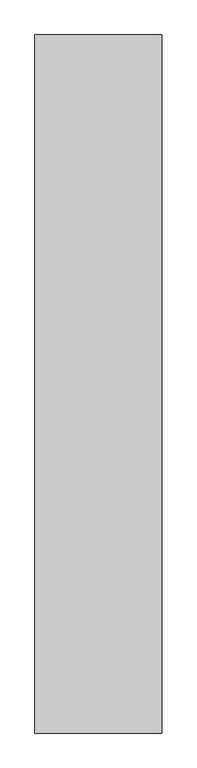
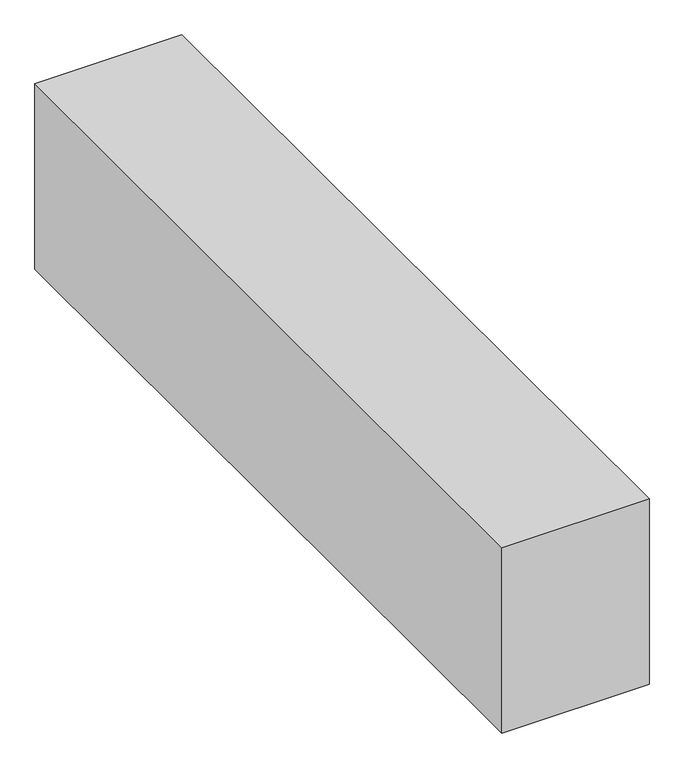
"""IFC4 building model written with IfcOpenShell, lengths in millimetres: proxy geometry, 制気口ボックス : 制気口ボックス."""

import ifcopenshell
import ifcopenshell.guid

model = None  # the IFC model being written
_history = None  # IfcOwnerHistory: only IFC2X3 demands one
_inside = {}  # id of a spatial element -> (the spatial element, [elements in it])
_under = {}  # id of a project, library or spatial element -> (it, [spatial elements below it])
_declared = {}  # id of a project -> (the project, [libraries it declares])
_typed = {}  # id of a type object -> (the type object, [elements of that type])
_made_of = {}  # id of a material, layer set ... -> (it, [elements and type objects made of it])


def new_model(schema):
    """Start an empty IFC model of exactly this schema.

    Asked for "IFC4X3", IfcOpenShell would pick the latest addendum, in which some entities
    have other attributes; the version numbers below select the first issue.
    IFC2X3 requires an IfcOwnerHistory on every rooted entity: one is made here for all.
    """
    global model, _history
    if schema == "IFC4X3":
        model = ifcopenshell.file(schema_version=(4, 3, 0, 0))
    else:
        model = ifcopenshell.file(schema=schema)
    _inside.clear()
    _under.clear()
    _declared.clear()
    _typed.clear()
    _made_of.clear()
    _history = None
    if model.schema == "IFC2X3":
        org = make("IfcOrganization", Name="unknown")
        user = make(
            "IfcPersonAndOrganization",
            ThePerson=make("IfcPerson", FamilyName="unknown"),
            TheOrganization=org,
        )
        app = make(
            "IfcApplication",
            ApplicationDeveloper=org,
            Version="unknown",
            ApplicationFullName="unknown",
            ApplicationIdentifier="unknown",
        )
        _history = make(
            "IfcOwnerHistory",
            OwningUser=user,
            OwningApplication=app,
            ChangeAction="ADDED",
            CreationDate=0,
        )
    return model


def make(cls, **values):
    """One entity of the class cls with the attributes given. An attribute that is None is left unset."""
    return model.create_entity(
        cls, **{name: value for name, value in values.items() if value is not None}
    )


def rooted(cls, **values):
    """An entity with a GlobalId (a new one), such as an element, a storey or a relation."""
    return make(cls, GlobalId=ifcopenshell.guid.new(), OwnerHistory=_history, **values)


def si_unit(unit_type, name, prefix=None):
    """IfcSIUnit, for example si_unit("LENGTHUNIT", "METRE", prefix="MILLI")."""
    return make("IfcSIUnit", UnitType=unit_type, Prefix=prefix, Name=name)


def assignment(units):
    """IfcUnitAssignment: the units of a project."""
    return None if units is None else make("IfcUnitAssignment", Units=units)


def point(xyz):
    """IfcCartesianPoint."""
    return None if xyz is None else make("IfcCartesianPoint", Coordinates=xyz)


def direction(xyz):
    """IfcDirection."""
    return None if xyz is None else make("IfcDirection", DirectionRatios=xyz)


def frame(location, z_axis=None, x_axis=None):
    """IfcAxis2Placement3D, a coordinate frame: its origin and axes. An axis left out is left unset."""
    return make(
        "IfcAxis2Placement3D",
        Location=point(location),
        Axis=direction(z_axis),
        RefDirection=direction(x_axis),
    )


def origin():
    """The frame at (0, 0, 0) with its axes left unset."""
    return frame((0.0, 0.0, 0.0))


def place(relative_to, where):
    """IfcLocalPlacement: puts the frame where relative to a parent placement (None: the world)."""
    return make(
        "IfcLocalPlacement", PlacementRelTo=relative_to, RelativePlacement=where
    )


def context(
    kind, dimensions, precision=None, world=None, true_north=None, identifier=None
):
    """IfcGeometricRepresentationContext, for example the 3D "Model" context."""
    return make(
        "IfcGeometricRepresentationContext",
        ContextIdentifier=identifier,
        ContextType=kind,
        CoordinateSpaceDimension=dimensions,
        Precision=precision,
        WorldCoordinateSystem=world,
        TrueNorth=true_north,
    )


def project(units=None, contexts=None):
    """IfcProject with its units and contexts."""
    return rooted(
        "IfcProject",
        Name="project",
        RepresentationContexts=contexts,
        UnitsInContext=assignment(units),
    )


def spatial(cls, under=None, at=None, **own):
    """A site, building, storey or space (cls), placed at a placement, below another one or the project."""
    s = rooted(cls, ObjectPlacement=at, **own)
    if under is not None:
        _under.setdefault(under.id(), (under, []))[1].append(s)
    return s


def polyline(points):
    """IfcPolyline through the points."""
    return make("IfcPolyline", Points=[point(p) for p in points])


def outline(outer, holes=None, kind="AREA"):
    """IfcArbitraryClosedProfileDef: a profile drawn as a closed curve; with holes, ...WithVoids."""
    if holes is None:
        return make("IfcArbitraryClosedProfileDef", ProfileType=kind, OuterCurve=outer)
    return make(
        "IfcArbitraryProfileDefWithVoids",
        ProfileType=kind,
        OuterCurve=outer,
        InnerCurves=holes,
    )


def extrude(swept, where, along, depth):
    """IfcExtrudedAreaSolid: the profile swept, set in the frame where, extruded along a direction by depth."""
    return make(
        "IfcExtrudedAreaSolid",
        SweptArea=swept,
        Position=where,
        ExtrudedDirection=direction(along),
        Depth=depth,
    )


def shape(context_of_items, identifier, shape_type, items):
    """IfcShapeRepresentation: the items that make up one representation, for example the "Body"."""
    return make(
        "IfcShapeRepresentation",
        ContextOfItems=context_of_items,
        RepresentationIdentifier=identifier,
        RepresentationType=shape_type,
        Items=items,
    )


def source(mapping_origin, context_of_items, identifier, shape_type, items):
    """IfcRepresentationMap: a shape defined once, which mapped items show again and again."""
    return make(
        "IfcRepresentationMap",
        MappingOrigin=mapping_origin,
        MappedRepresentation=shape(context_of_items, identifier, shape_type, items),
    )


def transform(
    local_origin,
    x_axis=None,
    y_axis=None,
    z_axis=None,
    scale=None,
    scale2=None,
    scale3=None,
    uniform=True,
):
    """IfcCartesianTransformationOperator3D, or its non-uniform kind. x_axis, y_axis, z_axis: its Axis1, 2, 3."""
    if uniform:
        return make(
            "IfcCartesianTransformationOperator3D",
            Axis1=direction(x_axis),
            Axis2=direction(y_axis),
            LocalOrigin=point(local_origin),
            Scale=scale,
            Axis3=direction(z_axis),
        )
    return make(
        "IfcCartesianTransformationOperator3DnonUniform",
        Axis1=direction(x_axis),
        Axis2=direction(y_axis),
        LocalOrigin=point(local_origin),
        Scale=scale,
        Axis3=direction(z_axis),
        Scale2=scale2,
        Scale3=scale3,
    )


def mapped(mapping_source, mapping_target):
    """IfcMappedItem: shows the shape of a source again, moved by a transform."""
    return make(
        "IfcMappedItem", MappingSource=mapping_source, MappingTarget=mapping_target
    )


def made_of(thing, what):
    """Note that an element or type object is made of a material, layer set ...; save() writes the relation."""
    if what is not None:
        _made_of.setdefault(what.id(), (what, []))[1].append(thing)
    return thing


def element(
    cls,
    number,
    at=None,
    inside=None,
    cuts=None,
    type_object=None,
    material=None,
    context=None,
    identifier="Body",
    shape_type=None,
    held_by="IfcProductDefinitionShape",
    body=None,
    shapes=None,
    **own,
):
    """One element of the class cls, such as IfcWall. Its Tag is "e" and its number.

    at: its placement. inside: the storey or other place that contains it. cuts: it is an
    opening in that element (IfcRelVoidsElement). A single representation is given by context,
    identifier, shape_type and body (its items); several are given by shapes. held_by: the class
    of the entity that holds the representations. save() writes the other relations.
    """
    e = rooted(cls, Tag="e%d" % number, ObjectPlacement=at, **own)
    if body is not None:
        shapes = [shape(context, identifier, shape_type, body)]
    if shapes is not None:
        e.Representation = make(held_by, Representations=shapes)
    if inside is not None:
        _inside.setdefault(inside.id(), (inside, []))[1].append(e)
    if cuts is not None:
        rooted(
            "IfcRelVoidsElement", RelatingBuildingElement=cuts, RelatedOpeningElement=e
        )
    if type_object is not None:
        _typed.setdefault(type_object.id(), (type_object, []))[1].append(e)
    return made_of(e, material)


def aggregate(whole, parts):
    """IfcRelAggregates: a whole, such as a stair, and the parts it consists of."""
    return rooted("IfcRelAggregates", RelatingObject=whole, RelatedObjects=parts)


def save(model, path):
    """Write the relations noted so far, then the file.

    IfcRelAggregates (storeys below a building ...), IfcRelContainedInSpatialStructure (elements
    in a storey), IfcRelDefinesByType, IfcRelAssociatesMaterial and IfcRelDeclares: one each for
    every whole, place, type object, material and project.
    """
    for whole, parts in _under.values():
        aggregate(whole, parts)
    for where, things in _inside.values():
        rooted(
            "IfcRelContainedInSpatialStructure",
            RelatedElements=things,
            RelatingStructure=where,
        )
    for kind, things in _typed.values():
        rooted("IfcRelDefinesByType", RelatedObjects=things, RelatingType=kind)
    for what, things in _made_of.values():
        rooted("IfcRelAssociatesMaterial", RelatedObjects=things, RelatingMaterial=what)
    for by, libraries in _declared.values():
        rooted("IfcRelDeclares", RelatingContext=by, RelatedDefinitions=libraries)
    model.write(path)


def mechanical_equipment_56171e86(model_context):
    return source(origin(), model_context, "Body", "SweptSolid", [
        extrude(outline(polyline([(150.0, 825.0), (150.0, -825.0), (-150.0, -825.0), (-150.0, 825.0), (150.0, 825.0)])), frame((0.0, 0.0, -200.0), z_axis=(0.0, 0.0, 1.0), x_axis=(1.0, 0.0, 0.0)), (0.0, 0.0, 1.0), 400.0),
    ])


if __name__ == "__main__":
    model = new_model("IFC4")
    model_context = context("Model", 3, world=origin())
    ifc_project = project(units=[si_unit("LENGTHUNIT", "METRE", prefix="MILLI")], contexts=[model_context])
    site = spatial("IfcSite", under=ifc_project)
    building = spatial("IfcBuilding", under=site)
    placement = place(None, origin())
    mechanical_equipment_shape = mechanical_equipment_56171e86(model_context)
    element("IfcBuildingElementProxy", 1, Name="制気口ボックス : 制気口ボックス", ObjectType="制気口ボックス : 制気口ボックス", at=placement, inside=building, context=model_context, shape_type="MappedRepresentation", body=[
        mapped(mechanical_equipment_shape, transform((0.0, 0.0, 0.0), x_axis=(1.0, 0.0, 0.0), y_axis=(0.0, 1.0, 0.0), z_axis=(0.0, 0.0, 1.0))),
    ])
    save(model, "model.ifc")
